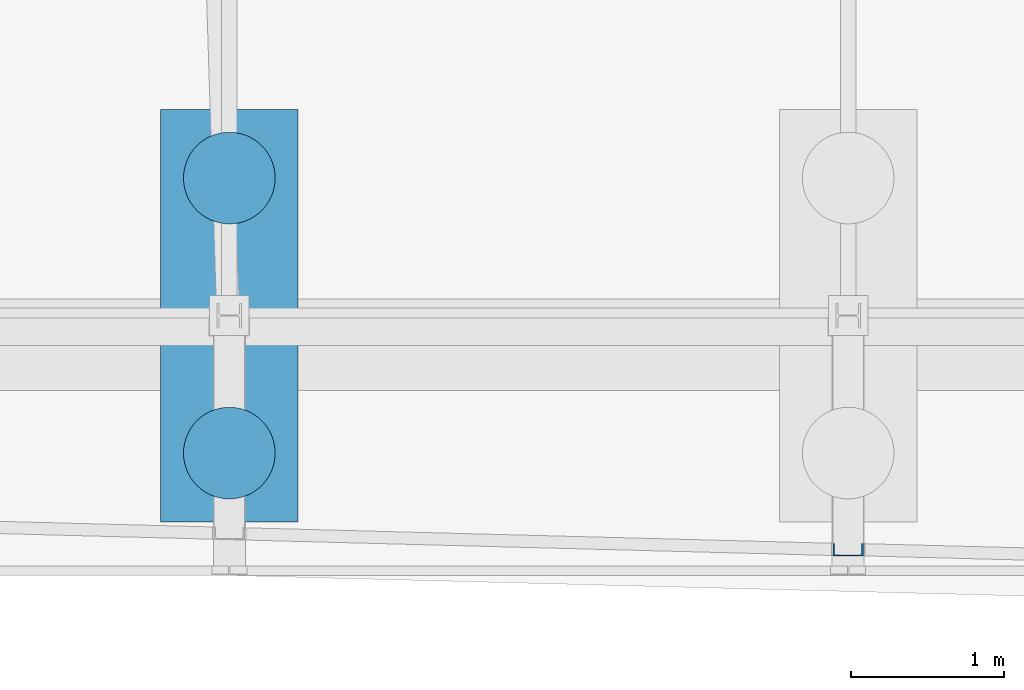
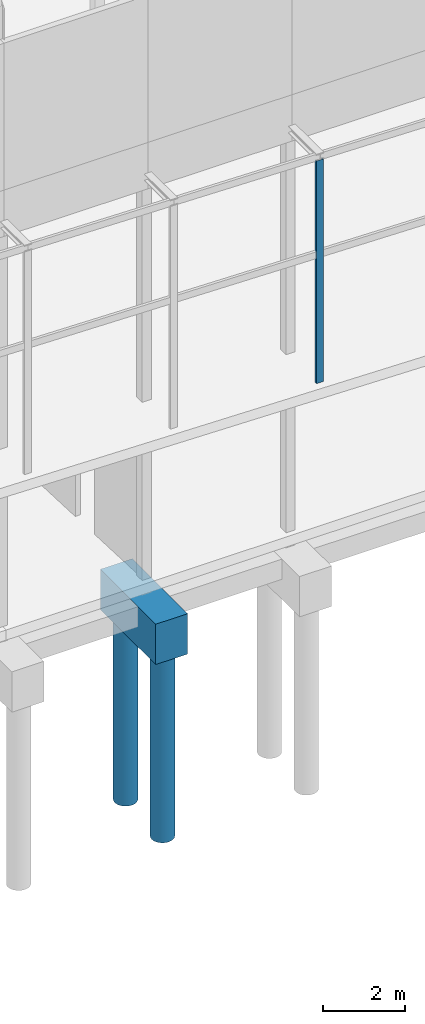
# One storey, part 34 of 82: 4 columns.
"""IFC2X3 building model written with IfcOpenShell, lengths in millimetres."""

import ifcopenshell
import ifcopenshell.guid

model = None  # the IFC model being written
_history = None  # IfcOwnerHistory: only IFC2X3 demands one
_inside = {}  # id of a spatial element -> (the spatial element, [elements in it])
_under = {}  # id of a project, library or spatial element -> (it, [spatial elements below it])
_declared = {}  # id of a project -> (the project, [libraries it declares])
_typed = {}  # id of a type object -> (the type object, [elements of that type])
_made_of = {}  # id of a material, layer set ... -> (it, [elements and type objects made of it])


def new_model(schema):
    """Start an empty IFC model of exactly this schema.

    Asked for "IFC4X3", IfcOpenShell would pick the latest addendum, in which some entities
    have other attributes; the version numbers below select the first issue.
    IFC2X3 requires an IfcOwnerHistory on every rooted entity: one is made here for all.
    """
    global model, _history
    if schema == "IFC4X3":
        model = ifcopenshell.file(schema_version=(4, 3, 0, 0))
    else:
        model = ifcopenshell.file(schema=schema)
    _inside.clear()
    _under.clear()
    _declared.clear()
    _typed.clear()
    _made_of.clear()
    _history = None
    if model.schema == "IFC2X3":
        org = make("IfcOrganization", Name="unknown")
        user = make(
            "IfcPersonAndOrganization",
            ThePerson=make("IfcPerson", FamilyName="unknown"),
            TheOrganization=org,
        )
        app = make(
            "IfcApplication",
            ApplicationDeveloper=org,
            Version="unknown",
            ApplicationFullName="unknown",
            ApplicationIdentifier="unknown",
        )
        _history = make(
            "IfcOwnerHistory",
            OwningUser=user,
            OwningApplication=app,
            ChangeAction="ADDED",
            CreationDate=0,
        )
    return model


def make(cls, **values):
    """One entity of the class cls with the attributes given. An attribute that is None is left unset."""
    return model.create_entity(
        cls, **{name: value for name, value in values.items() if value is not None}
    )


def rooted(cls, **values):
    """An entity with a GlobalId (a new one), such as an element, a storey or a relation."""
    return make(cls, GlobalId=ifcopenshell.guid.new(), OwnerHistory=_history, **values)


def si_unit(unit_type, name, prefix=None):
    """IfcSIUnit, for example si_unit("LENGTHUNIT", "METRE", prefix="MILLI")."""
    return make("IfcSIUnit", UnitType=unit_type, Prefix=prefix, Name=name)


def assignment(units):
    """IfcUnitAssignment: the units of a project."""
    return None if units is None else make("IfcUnitAssignment", Units=units)


def point(xyz):
    """IfcCartesianPoint."""
    return None if xyz is None else make("IfcCartesianPoint", Coordinates=xyz)


def direction(xyz):
    """IfcDirection."""
    return None if xyz is None else make("IfcDirection", DirectionRatios=xyz)


def frame(location, z_axis=None, x_axis=None):
    """IfcAxis2Placement3D, a coordinate frame: its origin and axes. An axis left out is left unset."""
    return make(
        "IfcAxis2Placement3D",
        Location=point(location),
        Axis=direction(z_axis),
        RefDirection=direction(x_axis),
    )


def frame_2d(location, x_axis=None):
    """IfcAxis2Placement2D, a coordinate frame in the plane: its origin and x axis."""
    return make(
        "IfcAxis2Placement2D", Location=point(location), RefDirection=direction(x_axis)
    )


def origin_with_axes():
    """The frame at (0, 0, 0) with the z axis (0, 0, 1) and the x axis (1, 0, 0) written out."""
    return frame((0.0, 0.0, 0.0), z_axis=(0.0, 0.0, 1.0), x_axis=(1.0, 0.0, 0.0))


def place(relative_to, where):
    """IfcLocalPlacement: puts the frame where relative to a parent placement (None: the world)."""
    return make(
        "IfcLocalPlacement", PlacementRelTo=relative_to, RelativePlacement=where
    )


def context(
    kind, dimensions, precision=None, world=None, true_north=None, identifier=None
):
    """IfcGeometricRepresentationContext, for example the 3D "Model" context."""
    return make(
        "IfcGeometricRepresentationContext",
        ContextIdentifier=identifier,
        ContextType=kind,
        CoordinateSpaceDimension=dimensions,
        Precision=precision,
        WorldCoordinateSystem=world,
        TrueNorth=true_north,
    )


def subcontext(parent, identifier, kind, view, scale=None):
    """IfcGeometricRepresentationSubContext, for example "Body" below "Model"."""
    return make(
        "IfcGeometricRepresentationSubContext",
        ContextIdentifier=identifier,
        ContextType=kind,
        ParentContext=parent,
        TargetScale=scale,
        TargetView=view,
    )


def project(units=None, contexts=None):
    """IfcProject with its units and contexts."""
    return rooted(
        "IfcProject",
        Name="project",
        RepresentationContexts=contexts,
        UnitsInContext=assignment(units),
    )


def spatial(cls, under=None, at=None, **own):
    """A site, building, storey or space (cls), placed at a placement, below another one or the project."""
    s = rooted(cls, ObjectPlacement=at, **own)
    if under is not None:
        _under.setdefault(under.id(), (under, []))[1].append(s)
    return s


def profile(cls, at=None, kind="AREA", **sizes):
    """A parametric profile (cls). Its sizes go by their IFC names, for example OverallWidth=200.0."""
    return make(cls, ProfileType=kind, Position=at, **sizes)


def rectangle(**sizes):
    """IfcRectangleProfileDef."""
    return profile("IfcRectangleProfileDef", **sizes)


def circle(**sizes):
    """IfcCircleProfileDef."""
    return profile("IfcCircleProfileDef", **sizes)


def u_section(**sizes):
    """IfcUShapeProfileDef."""
    return profile("IfcUShapeProfileDef", **sizes)


def extrude(swept, where, along, depth):
    """IfcExtrudedAreaSolid: the profile swept, set in the frame where, extruded along a direction by depth."""
    return make(
        "IfcExtrudedAreaSolid",
        SweptArea=swept,
        Position=where,
        ExtrudedDirection=direction(along),
        Depth=depth,
    )


def shape(context_of_items, identifier, shape_type, items):
    """IfcShapeRepresentation: the items that make up one representation, for example the "Body"."""
    return make(
        "IfcShapeRepresentation",
        ContextOfItems=context_of_items,
        RepresentationIdentifier=identifier,
        RepresentationType=shape_type,
        Items=items,
    )


def material(Name=None, Category=None):
    """IfcMaterial."""
    return make("IfcMaterial", Name=Name, Category=Category)


def made_of(thing, what):
    """Note that an element or type object is made of a material, layer set ...; save() writes the relation."""
    if what is not None:
        _made_of.setdefault(what.id(), (what, []))[1].append(thing)
    return thing


def type_object(cls, material=None, **own):
    """A type object (cls), such as IfcWallType, which elements share."""
    return made_of(rooted(cls, **own), material)


def element(
    cls,
    number,
    at=None,
    inside=None,
    cuts=None,
    type_object=None,
    material=None,
    context=None,
    identifier="Body",
    shape_type=None,
    held_by="IfcProductDefinitionShape",
    body=None,
    shapes=None,
    **own,
):
    """One element of the class cls, such as IfcWall. Its Tag is "e" and its number.

    at: its placement. inside: the storey or other place that contains it. cuts: it is an
    opening in that element (IfcRelVoidsElement). A single representation is given by context,
    identifier, shape_type and body (its items); several are given by shapes. held_by: the class
    of the entity that holds the representations. save() writes the other relations.
    """
    e = rooted(cls, Tag="e%d" % number, ObjectPlacement=at, **own)
    if body is not None:
        shapes = [shape(context, identifier, shape_type, body)]
    if shapes is not None:
        e.Representation = make(held_by, Representations=shapes)
    if inside is not None:
        _inside.setdefault(inside.id(), (inside, []))[1].append(e)
    if cuts is not None:
        rooted(
            "IfcRelVoidsElement", RelatingBuildingElement=cuts, RelatedOpeningElement=e
        )
    if type_object is not None:
        _typed.setdefault(type_object.id(), (type_object, []))[1].append(e)
    return made_of(e, material)


def aggregate(whole, parts):
    """IfcRelAggregates: a whole, such as a stair, and the parts it consists of."""
    return rooted("IfcRelAggregates", RelatingObject=whole, RelatedObjects=parts)


def save(model, path):
    """Write the relations noted so far, then the file.

    IfcRelAggregates (storeys below a building ...), IfcRelContainedInSpatialStructure (elements
    in a storey), IfcRelDefinesByType, IfcRelAssociatesMaterial and IfcRelDeclares: one each for
    every whole, place, type object, material and project.
    """
    for whole, parts in _under.values():
        aggregate(whole, parts)
    for where, things in _inside.values():
        rooted(
            "IfcRelContainedInSpatialStructure",
            RelatedElements=things,
            RelatingStructure=where,
        )
    for kind, things in _typed.values():
        rooted("IfcRelDefinesByType", RelatedObjects=things, RelatingType=kind)
    for what, things in _made_of.values():
        rooted("IfcRelAssociatesMaterial", RelatedObjects=things, RelatingMaterial=what)
    for by, libraries in _declared.values():
        rooted("IfcRelDeclares", RelatingContext=by, RelatedDefinitions=libraries)
    model.write(path)


model = new_model("IFC2X3")

# Units and contexts
model_context = context("Model", 3, precision=1e-05, world=origin_with_axes())
body_context = subcontext(model_context, "Body", "Model", "MODEL_VIEW")
ifc_project = project(units=[si_unit("LENGTHUNIT", "METRE", prefix="MILLI"), si_unit("AREAUNIT", "SQUARE_METRE"), si_unit("VOLUMEUNIT", "CUBIC_METRE"), si_unit("MASSUNIT", "GRAM", prefix="KILO"), si_unit("TIMEUNIT", "SECOND"), si_unit("PLANEANGLEUNIT", "RADIAN"), si_unit("SOLIDANGLEUNIT", "STERADIAN"), si_unit("THERMODYNAMICTEMPERATUREUNIT", "DEGREE_CELSIUS"), si_unit("LUMINOUSINTENSITYUNIT", "LUMEN")], contexts=[model_context])

# Site, building, storey
site_placement = place(None, origin_with_axes())
site = spatial("IfcSite", under=ifc_project, at=site_placement, Name="Undefined", CompositionType="ELEMENT")
building_placement = place(site_placement, origin_with_axes())
building = spatial("IfcBuilding", under=site, at=building_placement, Name="Undefined", CompositionType="ELEMENT")
storey_placement = place(building_placement, origin_with_axes())
storey = spatial("IfcBuildingStorey", under=building, at=storey_placement, Name="Undefined", CompositionType="ELEMENT", Elevation=0.0)

# Columns
ifc_material_1 = material(Name="STEEL/S275JR")
column_type_1 = type_object("IfcColumnType", Name="UPE200", PredefinedType="NOTDEFINED")
column_1_placement = place(storey_placement, frame((37349.9985721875, -1532.66610115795, 5300.00000000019), z_axis=(0.0, 0.0, 1.0), x_axis=(1.0, 0.0, 0.0)))
element("IfcColumn", 1, at=column_1_placement, inside=storey, type_object=column_type_1, material=ifc_material_1, Name="POUTRE", ObjectType="UPE200", context=body_context, shape_type="SweptSolid", body=[
    extrude(u_section(Depth=200.0, FlangeWidth=80.0, WebThickness=6.0, FlangeThickness=11.0, FilletRadius=13.0, at=frame_2d((5.17284206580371e-08, 4.49290382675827e-10), x_axis=(1.0, 0.0))), frame((0.0, 0.0, 6625.00000000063), z_axis=(0.0, -6.50000002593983e-08, -0.999999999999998), x_axis=(0.0, 1.0, 0.0)), (0.0, 0.0, 1.0), 6625.0),
])
ifc_material_2 = material(Name="CONCRETE/C30/37")
column_type_2 = type_object("IfcColumnType", Name="2700*900", PredefinedType="NOTDEFINED")
column_2_placement = place(storey_placement, frame((33300.0000000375, -1.3149175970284e-07, -1650.0), z_axis=(0.0, 0.0, 1.0), x_axis=(1.0, 0.0, 0.0)))
element("IfcColumn", 2, at=column_2_placement, inside=storey, type_object=column_type_2, material=ifc_material_2, Name="SEMELLE", ObjectType="2700*900", context=body_context, shape_type="SweptSolid", body=[
    extrude(rectangle(XDim=900.0, YDim=2700.0, at=frame_2d((5.17284206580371e-08, 4.49290382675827e-10), x_axis=(1.0, 0.0))), frame((0.0, 0.0, 1200.0), z_axis=(0.0, -6.50000002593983e-08, -0.999999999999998), x_axis=(-1.0, 0.0, 0.0)), (0.0, 0.0, 1.0), 1200.0),
])
ifc_material_3 = material(Name="CONCRETE/C25/30")
column_type_3 = type_object("IfcColumnType", Name="D600", PredefinedType="NOTDEFINED")
for number, where, z_axis, x_axis in (
    (3, (33300.0000000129, -900.000000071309, -7175.0), (0.0, 0.0, 1.0), (1.0, 0.0, 0.0)),
    (4, (33300.0000000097, 899.999999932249, -7175.0), (0.0, 0.0, 1.0), (1.0, 0.0, 0.0)),
):
    element("IfcColumn", number, at=place(storey_placement, frame(where, z_axis=z_axis, x_axis=x_axis)), inside=storey, type_object=column_type_3, material=ifc_material_3, Name="PIEU", ObjectType="D600", context=body_context, shape_type="SweptSolid", body=[
        extrude(circle(Radius=300.0, at=frame_2d((5.17284206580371e-08, 4.49290382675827e-10), x_axis=(1.0, 0.0))), frame((0.0, 0.0, 5750.0), z_axis=(0.0, -6.50000002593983e-08, -0.999999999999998), x_axis=(-1.0, 0.0, 0.0)), (0.0, 0.0, 1.0), 5750.0),
    ])

save(model, "model.ifc")
